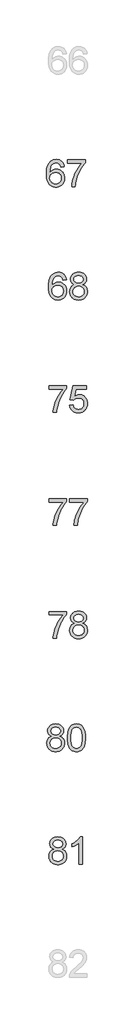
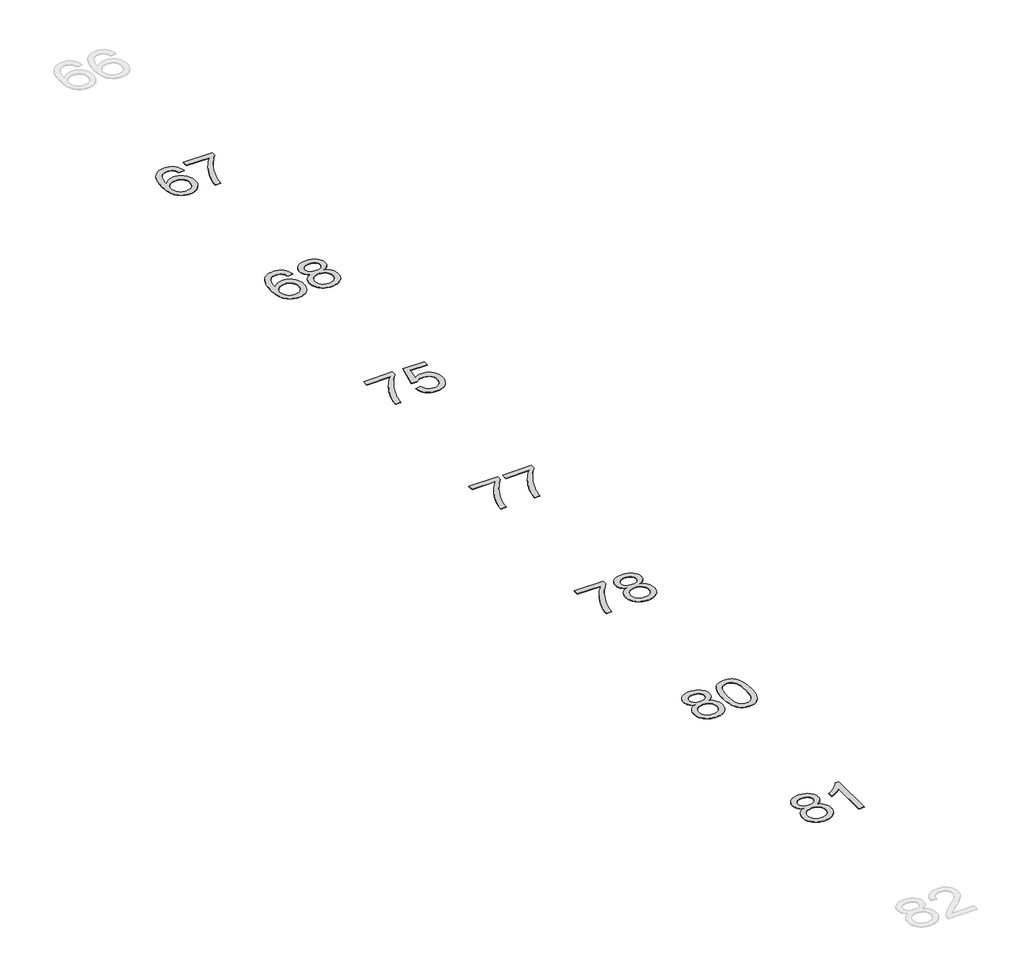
# One storey, part 2 of 19: 7 proxies.
"""IFC4 building model written with IfcOpenShell, lengths in millimetres."""

from ifc_helpers import new_model, si_unit, origin, origin_with_axes, place, context, project, spatial, polyline, outline, extrude, element, save

model = new_model("IFC4")

# Units and contexts
model_context = context("Model", 3, world=origin())
ifc_project = project(units=[si_unit("LENGTHUNIT", "METRE", prefix="MILLI")], contexts=[model_context])

# Site, building, storey
site = spatial("IfcSite", under=ifc_project)
building = spatial("IfcBuilding", under=site)
storey = spatial("IfcBuildingStorey", under=building, Name="Marelli - Linha ACTIVE - Planta Baixa", Elevation=0.0)

# Proxies
placement = place(None, origin())
element("IfcBuildingElementProxy", 1, Name="1200mm Arial", ObjectType="1200mm Arial", at=placement, inside=storey, context=model_context, shape_type="SweptSolid", body=[
    extrude(outline(polyline([(-24503.0512857, -163103.5472071), (-24653.7357509, -163122.3827652), (-24664.808999, -163082.0812927), (-24678.0159626, -163047.7027202), (-24693.3566418, -163019.2470479), (-24710.8310366, -162996.7142757), (-24743.2230462, -162969.2886729), (-24779.1835113, -162949.6989567), (-24818.7124317, -162937.9451269), (-24861.8098074, -162934.0271837), (-24897.3472081, -162936.3080521), (-24931.8545393, -162943.1506572), (-24965.3318008, -162954.554999), (-24997.7789928, -162970.5210776), (-25027.3842964, -162996.6315022), (-25054.3960319, -163028.1681863), (-25078.8141993, -163065.1311297), (-25100.6387987, -163107.5203326), (-25118.7110017, -163158.1316981), (-25131.87198, -163219.7611293), (-25140.1217338, -163292.4086263), (-25143.4602629, -163376.0741891), (-25114.7378761, -163338.2099347), (-25083.0172511, -163305.5512106), (-25048.2983878, -163278.0980167), (-25010.5812862, -163255.8503531), (-24970.8776219, -163238.6610669), (-24930.1990703, -163226.3830053), (-24888.5456314, -163219.0161683), (-24845.9173052, -163216.560556), (-24809.0187411, -163218.2390176), (-24773.5181285, -163223.2744024), (-24739.4154676, -163231.6667104), (-24706.7107582, -163243.4159416), (-24675.4040004, -163258.5220961), (-24645.4951942, -163276.9851737), (-24616.9843396, -163298.8051745), (-24589.8714366, -163323.9820986), (-24565.1083798, -163351.81697), (-24543.6470639, -163381.6108131), (-24525.4874889, -163413.3636278), (-24510.6296548, -163447.0754142), (-24499.0735616, -163482.7461721), (-24490.8192094, -163520.3759017), (-24485.866598, -163559.9646029), (-24484.2157275, -163601.5122757), (-24487.3243304, -163656.4462547), (-24496.650139, -163709.4120649), (-24512.1931533, -163760.4097065), (-24533.9533733, -163809.4391794), (-24561.1582468, -163854.6702707), (-24593.0352217, -163894.2727675), (-24629.5842979, -163928.2466698), (-24670.8054755, -163956.5919775), (-24715.8158376, -163978.9316116), (-24763.7324675, -163994.8884932), (-24814.5553651, -164004.4626221), (-24868.2845305, -164007.6539984), (-24914.2858747, -164005.5386769), (-24958.1121167, -163999.1927125), (-24999.7632563, -163988.6161052), (-25039.2392937, -163973.8088549), (-25076.5402287, -163954.7709616), (-25111.6660615, -163931.5024254), (-25144.6167919, -163904.0032463), (-25175.3924201, -163872.2734242), (-25203.2249923, -163835.6875598), (-25227.3465548, -163793.6202536), (-25247.7571078, -163746.0715057), (-25264.4566511, -163693.0413161), (-25277.4451848, -163634.5296848), (-25286.7227089, -163570.5366118), (-25292.2892233, -163501.062097), (-25294.1447281, -163426.1061404), (-25292.0845889, -163342.1784618), (-25285.9041714, -163264.1828803), (-25275.6034756, -163192.1193959), (-25261.1825014, -163125.9880088), (-25242.6412488, -163065.7887188), (-25219.9797179, -163011.521526), (-25193.1979086, -162963.1864303), (-25162.2958211, -162920.7834319), (-25132.2812488, -162888.5707647), (-25099.774276, -162860.6531198), (-25064.7749027, -162837.0304971), (-25027.2831288, -162817.7028968), (-24987.2989545, -162802.6703188), (-24944.8223796, -162791.9327631), (-24899.8534042, -162785.4902296), (-24852.3920283, -162783.3427185), (-24782.9910899, -162788.6586133), (-24720.1752392, -162804.6062978), (-24663.9444763, -162831.1857719), (-24614.298801, -162868.3970358), (-24572.5809828, -162914.9892904), (-24540.1337908, -162969.7117372), (-24516.9572251, -163032.5643761), (-24503.0512857, -163103.5472071)]), holes=[polyline([(-25143.4602629, -163599.157831), (-25141.2805621, -163632.9202011), (-25134.7414596, -163665.9284131), (-25123.8429555, -163698.182467), (-25108.5850498, -163729.6823629), (-25089.7127034, -163758.9473756), (-25067.9708775, -163784.4967801), (-25043.359572, -163806.3305766), (-25015.878787, -163824.4487648), (-24985.7032663, -163838.676601), (-24953.007754, -163848.8393411), (-24917.79225, -163854.9369852), (-24880.0567544, -163856.9695332), (-24827.6795553, -163852.7572844), (-24780.6182511, -163840.1205378), (-24738.8728417, -163819.0592936), (-24702.4433271, -163789.5735517), (-24672.8932058, -163752.8589286), (-24651.7859763, -163710.1110407), (-24639.1216387, -163661.3298882), (-24634.9001928, -163606.5154709), (-24639.0664564, -163553.8439662), (-24651.5652471, -163507.0769676), (-24672.3965651, -163466.214475), (-24701.5604103, -163431.2564884), (-24738.1002895, -163403.2514715), (-24781.0597094, -163383.247888), (-24830.4386703, -163371.2457379), (-24886.2371719, -163367.2450212), (-24937.9153951, -163371.2457379), (-24985.5285224, -163383.247888), (-25029.0765535, -163403.2514715), (-25068.5594887, -163431.2564884), (-25101.3285774, -163465.7546225), (-25124.7350693, -163505.2375576), (-25138.7789645, -163549.7052938), (-25143.4602629, -163599.157831)])]), origin_with_axes(), (0.0, 0.0, 1.0), 10.0),
    extrude(outline(polyline([(-24352.3668205, -162952.8627418), (-24352.3668205, -162802.1782766), (-23561.273378, -162802.1782766), (-23561.273378, -162924.0207934), (-23617.7892496, -162990.5246611), (-23674.0292096, -163066.7222194), (-23729.9932581, -163152.6134682), (-23785.6813951, -163248.1984076), (-23838.0769883, -163349.3383651), (-23884.1634052, -163451.8946683), (-23923.9406459, -163555.8673172), (-23957.4087104, -163661.2563118), (-23977.3479146, -163737.7941609), (-23993.3139932, -163817.9004653), (-24005.3069462, -163901.5752251), (-24013.3267737, -163988.8184403), (-24164.0112389, -163988.8184403), (-24159.2747583, -163914.8189769), (-24147.7140666, -163833.4986619), (-24129.3291638, -163744.8574952), (-24104.1200501, -163648.8954767), (-24072.381031, -163550.1651463), (-24034.406412, -163453.2190435), (-23990.1961933, -163358.0571684), (-23939.7503747, -163264.679521), (-23885.3406276, -163175.8268221), (-23829.2386233, -163094.2397926), (-23771.4443619, -163019.9184325), (-23711.9578433, -162952.8627418), (-24352.3668205, -162952.8627418)])), origin_with_axes(), (0.0, 0.0, 1.0), 10.0),
])
element("IfcBuildingElementProxy", 2, Name="1200mm Arial", ObjectType="1200mm Arial", at=placement, inside=storey, context=model_context, shape_type="SweptSolid", body=[
    extrude(outline(polyline([(-24408.8734949, -168103.5472071), (-24559.5579602, -168122.3827652), (-24570.6312082, -168082.0812927), (-24583.8381718, -168047.7027202), (-24599.178851, -168019.2470479), (-24616.6532458, -167996.7142757), (-24649.0452555, -167969.2886729), (-24685.0057205, -167949.6989567), (-24724.5346409, -167937.9451269), (-24767.6320166, -167934.0271837), (-24803.1694174, -167936.3080521), (-24837.6767485, -167943.1506572), (-24871.1540101, -167954.554999), (-24903.601202, -167970.5210776), (-24933.2065056, -167996.6315022), (-24960.2182411, -168028.1681863), (-24984.6364085, -168065.1311297), (-25006.4610079, -168107.5203326), (-25024.5332109, -168158.1316981), (-25037.6941893, -168219.7611293), (-25045.943943, -168292.4086263), (-25049.2824721, -168376.0741891), (-25020.5600854, -168338.2099347), (-24988.8394603, -168305.5512106), (-24954.120597, -168278.0980167), (-24916.4034955, -168255.8503531), (-24876.6998311, -168238.6610669), (-24836.0212795, -168226.3830053), (-24794.3678406, -168219.0161683), (-24751.7395144, -168216.560556), (-24714.8409503, -168218.2390176), (-24679.3403378, -168223.2744024), (-24645.2376768, -168231.6667104), (-24612.5329675, -168243.4159416), (-24581.2262097, -168258.5220961), (-24551.3174035, -168276.9851737), (-24522.8065488, -168298.8051745), (-24495.6936458, -168323.9820986), (-24470.930589, -168351.81697), (-24449.4692731, -168381.6108131), (-24431.3096981, -168413.3636278), (-24416.451864, -168447.0754142), (-24404.8957709, -168482.7461721), (-24396.6414186, -168520.3759017), (-24391.6888072, -168559.9646029), (-24390.0379368, -168601.5122757), (-24393.1465396, -168656.4462547), (-24402.4723482, -168709.4120649), (-24418.0153625, -168760.4097065), (-24439.7755825, -168809.4391794), (-24466.9804561, -168854.6702707), (-24498.8574309, -168894.2727675), (-24535.4065072, -168928.2466698), (-24576.6276847, -168956.5919775), (-24621.6380468, -168978.9316116), (-24669.5546767, -168994.8884932), (-24720.3775743, -169004.4626221), (-24774.1067397, -169007.6539984), (-24820.108084, -169005.5386769), (-24863.9343259, -168999.1927125), (-24905.5854656, -168988.6161052), (-24945.0615029, -168973.8088549), (-24982.3624379, -168954.7709616), (-25017.4882707, -168931.5024254), (-25050.4390012, -168904.0032463), (-25081.2146293, -168872.2734242), (-25109.0472015, -168835.6875598), (-25133.1687641, -168793.6202536), (-25153.579317, -168746.0715057), (-25170.2788603, -168693.0413161), (-25183.267394, -168634.5296848), (-25192.5449181, -168570.5366118), (-25198.1114325, -168501.062097), (-25199.9669374, -168426.1061404), (-25197.9067982, -168342.1784618), (-25191.7263807, -168264.1828803), (-25181.4256848, -168192.1193959), (-25167.0047106, -168125.9880088), (-25148.463458, -168065.7887188), (-25125.8019271, -168011.521526), (-25099.0201179, -167963.1864303), (-25068.1180303, -167920.7834319), (-25038.103458, -167888.5707647), (-25005.5964852, -167860.6531198), (-24970.5971119, -167837.0304971), (-24933.1053381, -167817.7028968), (-24893.1211637, -167802.6703188), (-24850.6445888, -167791.9327631), (-24805.6756135, -167785.4902296), (-24758.2142375, -167783.3427185), (-24688.8132992, -167788.6586133), (-24625.9974485, -167804.6062978), (-24569.7666855, -167831.1857719), (-24520.1210103, -167868.3970358), (-24478.403192, -167914.9892904), (-24445.956, -167969.7117372), (-24422.7794343, -168032.5643761), (-24408.8734949, -168103.5472071)]), holes=[polyline([(-25049.2824721, -168599.157831), (-25047.1027713, -168632.9202011), (-25040.5636688, -168665.9284131), (-25029.6651647, -168698.182467), (-25014.407259, -168729.6823629), (-24995.5349126, -168758.9473756), (-24973.7930867, -168784.4967801), (-24949.1817812, -168806.3305766), (-24921.7009962, -168824.4487648), (-24891.5254756, -168838.676601), (-24858.8299632, -168848.8393411), (-24823.6144592, -168854.9369852), (-24785.8789636, -168856.9695332), (-24733.5017645, -168852.7572844), (-24686.4404603, -168840.1205378), (-24644.6950509, -168819.0592936), (-24608.2655363, -168789.5735517), (-24578.7154151, -168752.8589286), (-24557.6081856, -168710.1110407), (-24544.9438479, -168661.3298882), (-24540.722402, -168606.5154709), (-24544.8886656, -168553.8439662), (-24557.3874564, -168507.0769676), (-24578.2187744, -168466.214475), (-24607.3826195, -168431.2564884), (-24643.9224987, -168403.2514715), (-24686.8819187, -168383.247888), (-24736.2608795, -168371.2457379), (-24792.0593811, -168367.2450212), (-24843.7376044, -168371.2457379), (-24891.3507316, -168383.247888), (-24934.8987628, -168403.2514715), (-24974.3816979, -168431.2564884), (-25007.1507866, -168465.7546225), (-25030.5572786, -168505.2375576), (-25044.6011737, -168549.7052938), (-25049.2824721, -168599.157831)])]), origin_with_axes(), (0.0, 0.0, 1.0), 10.0),
    extrude(outline(polyline([(-24038.637055, -168324.8650154), (-24081.9827511, -168306.7652212), (-24119.3135765, -168285.1337599), (-24150.6295314, -168259.9706314), (-24175.9306156, -168231.2758358), (-24195.4375584, -168199.3252845), (-24209.3710889, -168164.3948891), (-24217.7312073, -168126.4846495), (-24220.5179134, -168085.5945657), (-24214.4478605, -168024.1398784), (-24206.8602943, -167995.3301197), (-24196.2377017, -167967.7987509), (-24182.5800826, -167941.545772), (-24165.8874371, -167916.571183), (-24123.3970667, -167870.4571749), (-24098.109778, -167850.0397242), (-24070.8083355, -167832.3446002), (-24041.492739, -167817.371803), (-24010.1629886, -167805.1213326), (-23941.461026, -167788.787372), (-23864.7024477, -167783.3427185), (-23787.5759874, -167788.9161307), (-23718.35899, -167805.6363674), (-23686.7165399, -167818.1765449), (-23657.0514555, -167833.5034285), (-23629.3637368, -167851.6170183), (-23603.6533839, -167872.5173141), (-23560.3904613, -167919.5326331), (-23543.3943131, -167944.8613085), (-23529.4883737, -167971.4039944), (-23518.672643, -167999.1606909), (-23510.9471211, -168028.1313981), (-23506.311808, -168058.3161158), (-23504.7667036, -168089.7148441), (-23507.5166215, -168129.160991), (-23515.7663752, -168165.9767817), (-23529.5159648, -168200.1622161), (-23548.7653902, -168231.7172942), (-23573.6066219, -168260.2189518), (-23604.1316305, -168285.2441245), (-23640.3404159, -168306.7928124), (-23682.2329781, -168324.8650154), (-23632.7068645, -168345.9354566), (-23589.4899271, -168372.6528865), (-23552.5821659, -168405.0173051), (-23521.983581, -168443.0287122), (-23497.9700837, -168485.8409794), (-23480.8175857, -168532.607978), (-23470.5260869, -168583.3297081), (-23467.0955873, -168638.0061697), (-23468.7970415, -168676.3670647), (-23473.9014042, -168713.1644613), (-23482.4086753, -168748.3983594), (-23494.3188549, -168782.068759), (-23509.631943, -168814.1756601), (-23528.3479395, -168844.7190628), (-23550.4668444, -168873.6989669), (-23575.9886578, -168901.1153726), (-23604.2879803, -168926.085363), (-23634.7394125, -168947.7260214), (-23667.3429543, -168966.0373477), (-23702.0986058, -168981.019342), (-23739.006367, -168992.6720042), (-23778.0662378, -169000.9953343), (-23819.2782183, -169005.9893324), (-23862.6423085, -169007.6539984), (-23906.0063987, -169005.9824346), (-23947.2183792, -169000.9677432), (-23986.27825, -168992.6099241), (-24023.1860112, -168980.9089774), (-24057.9416627, -168965.864903), (-24090.5452045, -168947.4777011), (-24120.9966367, -168925.7473715), (-24149.2959591, -168900.6739142), (-24174.8177725, -168873.1034579), (-24196.9366775, -168843.8821312), (-24215.652674, -168813.009934), (-24230.9657621, -168780.4868664), (-24242.8759417, -168746.3129283), (-24251.3832128, -168710.4881198), (-24256.4875755, -168673.0124408), (-24258.1890297, -168633.8858913), (-24254.6205744, -168576.7170293), (-24243.9152083, -168524.4042096), (-24226.0729315, -168476.9474322), (-24201.0937441, -168434.3466971), (-24169.5294689, -168397.3745566), (-24131.931929, -168366.8035628), (-24088.3011243, -168342.6337157), (-24038.637055, -168324.8650154)]), holes=[polyline([(-24069.8334482, -168090.0091497), (-24066.4949191, -168124.553269), (-24056.4793317, -168155.7864504), (-24039.7866862, -168183.7086938), (-24016.4169825, -168208.3199993), (-23986.6645261, -168228.4063562), (-23950.8236227, -168242.753754), (-23908.8942723, -168251.3621927), (-23860.8764749, -168254.2316723), (-23814.0450969, -168251.3805868), (-23773.0262545, -168242.8273304), (-23737.8199475, -168228.5719031), (-23708.4261761, -168208.6143049), (-23685.2496104, -168184.5180342), (-23668.6949206, -168157.8465896), (-23658.7621068, -168128.5999709), (-23655.4511688, -168096.7781784), (-23658.8724714, -168063.714784), (-23669.136379, -168033.3921106), (-23686.2428918, -168005.810158), (-23710.1920097, -167980.9689263), (-23740.2479687, -167960.4319139), (-23775.6750048, -167945.7626193), (-23816.4731181, -167936.9610426), (-23862.6423085, -167934.0271837), (-23909.1701838, -167936.8966633), (-23950.1614351, -167945.5051019), (-23985.6160624, -167959.8524998), (-24015.5340657, -167979.9388567), (-24039.2900455, -168004.0351274), (-24056.2586026, -168030.4122664), (-24066.4397368, -168059.0702739), (-24069.8334482, -168090.0091497)]), polyline([(-24107.5045645, -168628.5883906), (-24105.931869, -168657.6418712), (-24101.2137824, -168686.2354992), (-24082.341436, -168742.0431979), (-24067.3410477, -168767.9328933), (-24047.5030111, -168790.7139859), (-24022.8273262, -168810.3864756), (-23993.3139932, -168826.9503624), (-23961.1243186, -168840.0837496), (-23928.4196092, -168849.4647405), (-23895.1998651, -168855.093335), (-23861.4650861, -168856.9695332), (-23806.9817626, -168853.0239988), (-23758.8995859, -168841.1873956), (-23717.2185558, -168821.4597236), (-23681.9386725, -168793.8409828), (-23653.8692762, -168760.133795), (-23633.8197075, -168722.140782), (-23621.7899662, -168679.8619437), (-23617.7800525, -168633.2972801), (-23621.9187249, -168585.9876555), (-23634.3347423, -168542.9454621), (-23655.0281045, -168504.1706998), (-23683.9988116, -168469.6633687), (-23720.2351882, -168441.336455), (-23762.7255586, -168421.1029453), (-23811.469923, -168408.9628395), (-23866.4682812, -168404.9161375), (-23920.1514614, -168408.9076572), (-23967.5990417, -168420.8822161), (-24008.8110222, -168440.8398144), (-24043.7874029, -168468.7804519), (-24071.6636611, -168502.7175659), (-24091.5752741, -168540.6645937), (-24103.5222419, -168582.6215353), (-24107.5045645, -168628.5883906)])]), origin_with_axes(), (0.0, 0.0, 1.0), 10.0),
])
element("IfcBuildingElementProxy", 3, Name="1200mm Arial", ObjectType="1200mm Arial", at=placement, inside=storey, context=model_context, shape_type="SweptSolid", body=[
    extrude(outline(polyline([(-25181.1313792, -172952.8627418), (-25181.1313792, -172802.1782766), (-24390.0379368, -172802.1782766), (-24390.0379368, -172924.0207934), (-24446.5538083, -172990.5246611), (-24502.7937683, -173066.7222194), (-24558.7578168, -173152.6134682), (-24614.4459538, -173248.1984076), (-24666.841547, -173349.3383651), (-24712.9279639, -173451.8946683), (-24752.7052047, -173555.8673172), (-24786.1732692, -173661.2563118), (-24806.1124733, -173737.7941609), (-24822.0785519, -173817.9004653), (-24834.071505, -173901.5752251), (-24842.0913324, -173988.8184403), (-24992.7757977, -173988.8184403), (-24988.039317, -173914.8189769), (-24976.4786253, -173833.4986619), (-24958.0937226, -173744.8574952), (-24932.8846089, -173648.8954767), (-24901.1455897, -173550.1651463), (-24863.1709708, -173453.2190435), (-24818.960752, -173358.0571684), (-24768.5149334, -173264.679521), (-24714.1051863, -173175.8268221), (-24658.0031821, -173094.2397926), (-24600.2089206, -173019.9184325), (-24540.722402, -172952.8627418), (-25181.1313792, -172952.8627418)])), origin_with_axes(), (0.0, 0.0, 1.0), 10.0),
    extrude(outline(polyline([(-24258.1890297, -173668.6139517), (-24107.5045645, -173649.7783935), (-24096.2473754, -173698.2192552), (-24079.8398384, -173740.2405761), (-24058.2819535, -173775.8423562), (-24031.5737207, -173805.0245955), (-23999.7703222, -173827.7505057), (-23962.9269404, -173843.9832988), (-23921.0435752, -173853.7229746), (-23874.1202267, -173856.9695332), (-23816.7306355, -173852.4537817), (-23766.110073, -173838.9065272), (-23722.2585391, -173816.3277698), (-23685.176034, -173784.7175093), (-23655.6902921, -173745.6392444), (-23634.6290479, -173700.6564734), (-23621.9923013, -173649.7691965), (-23617.7800525, -173592.9774135), (-23621.7255869, -173539.3034304), (-23633.5621901, -173491.5891356), (-23653.2898621, -173449.8345291), (-23680.9086029, -173414.039611), (-23716.510383, -173385.3264213), (-23760.1871728, -173364.817), (-23811.9389725, -173352.5113473), (-23871.765782, -173348.4094631), (-23910.0531006, -173350.0465379), (-23944.8639344, -173354.9577626), (-23976.1982834, -173363.143137), (-24004.0561474, -173374.6026611), (-24051.3289838, -173404.6954083), (-24088.6690063, -173442.5872538), (-24239.3534716, -173423.7516957), (-24107.5045645, -172802.1782766), (-23523.6022617, -172802.1782766), (-23523.6022617, -172952.8627418), (-23985.6620477, -172952.8627418), (-24050.1149732, -173284.8394543), (-23996.9376308, -173246.7268796), (-23942.4727014, -173219.503612), (-23886.7201851, -173203.1696514), (-23829.6800817, -173197.7249978), (-23792.2411909, -173199.4126565), (-23756.2968207, -173204.4756325), (-23721.8469711, -173212.9139257), (-23688.8916422, -173224.7275363), (-23657.4308338, -173239.9164642), (-23627.464546, -173258.4807093), (-23598.9927789, -173280.4202718), (-23572.0155323, -173305.7351516), (-23547.4249202, -173333.7033803), (-23526.1130564, -173363.6029895), (-23508.0799408, -173395.4339791), (-23493.3255735, -173429.1963492), (-23481.8499545, -173464.8900998), (-23473.6530838, -173502.5152308), (-23468.7349614, -173542.0717424), (-23467.0955873, -173583.5596344), (-23473.0000933, -173661.6241938), (-23480.3807258, -173698.6147284), (-23490.7136114, -173734.2440996), (-23503.9987499, -173768.5123075), (-23520.2361415, -173801.4193519), (-23539.4257861, -173832.965233), (-23561.5676836, -173863.1499507), (-23591.5684603, -173897.0180869), (-23624.1811992, -173926.3704716), (-23659.4059003, -173951.2071048), (-23697.2425635, -173971.5279865), (-23737.6911888, -173987.3331167), (-23780.7517764, -173998.6224954), (-23826.4243261, -174005.3961227), (-23874.7088379, -174007.6539984), (-23952.4698947, -174001.8506599), (-23988.529228, -173994.5964869), (-24022.7077646, -173984.4406445), (-24055.0055045, -173971.383133), (-24085.4224477, -173955.4239522), (-24113.9585942, -173936.5631021), (-24140.613944, -173914.8005828), (-24164.9516373, -173890.6422321), (-24186.5348141, -173864.5938875), (-24205.3634745, -173836.6555493), (-24221.4376184, -173806.8272173), (-24234.7572459, -173775.1088915), (-24245.3223569, -173741.500572), (-24258.1890297, -173668.6139517)])), origin_with_axes(), (0.0, 0.0, 1.0), 10.0),
])
element("IfcBuildingElementProxy", 4, Name="1200mm Arial", ObjectType="1200mm Arial", at=placement, inside=storey, context=model_context, shape_type="SweptSolid", body=[
    extrude(outline(polyline([(-25181.1313792, -177952.8627418), (-25181.1313792, -177802.1782766), (-24390.0379368, -177802.1782766), (-24390.0379368, -177924.0207934), (-24446.5538083, -177990.5246611), (-24502.7937683, -178066.7222194), (-24558.7578168, -178152.6134682), (-24614.4459538, -178248.1984076), (-24666.841547, -178349.3383651), (-24712.9279639, -178451.8946683), (-24752.7052047, -178555.8673172), (-24786.1732692, -178661.2563118), (-24806.1124733, -178737.7941609), (-24822.0785519, -178817.9004653), (-24834.071505, -178901.5752251), (-24842.0913324, -178988.8184403), (-24992.7757977, -178988.8184403), (-24988.039317, -178914.8189769), (-24976.4786253, -178833.4986619), (-24958.0937226, -178744.8574952), (-24932.8846089, -178648.8954767), (-24901.1455897, -178550.1651463), (-24863.1709708, -178453.2190435), (-24818.960752, -178358.0571684), (-24768.5149334, -178264.679521), (-24714.1051863, -178175.8268221), (-24658.0031821, -178094.2397926), (-24600.2089206, -178019.9184325), (-24540.722402, -177952.8627418), (-25181.1313792, -177952.8627418)])), origin_with_axes(), (0.0, 0.0, 1.0), 10.0),
    extrude(outline(polyline([(-24258.1890297, -177952.8627418), (-24258.1890297, -177802.1782766), (-23467.0955873, -177802.1782766), (-23467.0955873, -177924.0207934), (-23523.6114588, -177990.5246611), (-23579.8514188, -178066.7222194), (-23635.8154673, -178152.6134682), (-23691.5036043, -178248.1984076), (-23743.8991975, -178349.3383651), (-23789.9856144, -178451.8946683), (-23829.7628552, -178555.8673172), (-23863.2309197, -178661.2563118), (-23883.1701238, -178737.7941609), (-23899.1362024, -178817.9004653), (-23911.1291555, -178901.5752251), (-23919.1489829, -178988.8184403), (-24069.8334482, -178988.8184403), (-24065.0969675, -178914.8189769), (-24053.5362758, -178833.4986619), (-24035.1513731, -178744.8574952), (-24009.9422594, -178648.8954767), (-23978.2032402, -178550.1651463), (-23940.2286213, -178453.2190435), (-23896.0184025, -178358.0571684), (-23845.5725839, -178264.679521), (-23791.1628368, -178175.8268221), (-23735.0608326, -178094.2397926), (-23677.2665711, -178019.9184325), (-23617.7800525, -177952.8627418), (-24258.1890297, -177952.8627418)])), origin_with_axes(), (0.0, 0.0, 1.0), 10.0),
])
element("IfcBuildingElementProxy", 5, Name="1200mm Arial", ObjectType="1200mm Arial", at=placement, inside=storey, context=model_context, shape_type="SweptSolid", body=[
    extrude(outline(polyline([(-25181.1313792, -182952.8627418), (-25181.1313792, -182802.1782766), (-24390.0379368, -182802.1782766), (-24390.0379368, -182924.0207934), (-24446.5538083, -182990.5246611), (-24502.7937683, -183066.7222194), (-24558.7578168, -183152.6134682), (-24614.4459538, -183248.1984076), (-24666.841547, -183349.3383651), (-24712.9279639, -183451.8946683), (-24752.7052047, -183555.8673172), (-24786.1732692, -183661.2563118), (-24806.1124733, -183737.7941609), (-24822.0785519, -183817.9004653), (-24834.071505, -183901.5752251), (-24842.0913324, -183988.8184403), (-24992.7757977, -183988.8184403), (-24988.039317, -183914.8189769), (-24976.4786253, -183833.4986619), (-24958.0937226, -183744.8574952), (-24932.8846089, -183648.8954767), (-24901.1455897, -183550.1651463), (-24863.1709708, -183453.2190435), (-24818.960752, -183358.0571684), (-24768.5149334, -183264.679521), (-24714.1051863, -183175.8268221), (-24658.0031821, -183094.2397926), (-24600.2089206, -183019.9184325), (-24540.722402, -182952.8627418), (-25181.1313792, -182952.8627418)])), origin_with_axes(), (0.0, 0.0, 1.0), 10.0),
    extrude(outline(polyline([(-24038.637055, -183324.8650154), (-24081.9827511, -183306.7652212), (-24119.3135765, -183285.1337599), (-24150.6295314, -183259.9706314), (-24175.9306156, -183231.2758358), (-24195.4375584, -183199.3252845), (-24209.3710889, -183164.3948891), (-24217.7312073, -183126.4846495), (-24220.5179134, -183085.5945657), (-24214.4478605, -183024.1398784), (-24206.8602943, -182995.3301197), (-24196.2377017, -182967.7987509), (-24182.5800826, -182941.545772), (-24165.8874371, -182916.571183), (-24123.3970667, -182870.4571749), (-24098.109778, -182850.0397242), (-24070.8083355, -182832.3446002), (-24041.492739, -182817.371803), (-24010.1629886, -182805.1213326), (-23941.461026, -182788.787372), (-23864.7024477, -182783.3427185), (-23787.5759874, -182788.9161307), (-23718.35899, -182805.6363674), (-23686.7165399, -182818.1765449), (-23657.0514555, -182833.5034285), (-23629.3637368, -182851.6170183), (-23603.6533839, -182872.5173141), (-23560.3904613, -182919.5326331), (-23543.3943131, -182944.8613085), (-23529.4883737, -182971.4039944), (-23518.672643, -182999.1606909), (-23510.9471211, -183028.1313981), (-23506.311808, -183058.3161158), (-23504.7667036, -183089.7148441), (-23507.5166215, -183129.160991), (-23515.7663752, -183165.9767817), (-23529.5159648, -183200.1622161), (-23548.7653902, -183231.7172942), (-23573.6066219, -183260.2189518), (-23604.1316305, -183285.2441245), (-23640.3404159, -183306.7928124), (-23682.2329781, -183324.8650154), (-23632.7068645, -183345.9354566), (-23589.4899271, -183372.6528865), (-23552.5821659, -183405.0173051), (-23521.983581, -183443.0287122), (-23497.9700837, -183485.8409794), (-23480.8175857, -183532.607978), (-23470.5260869, -183583.3297081), (-23467.0955873, -183638.0061697), (-23468.7970415, -183676.3670647), (-23473.9014042, -183713.1644613), (-23482.4086753, -183748.3983594), (-23494.3188549, -183782.068759), (-23509.631943, -183814.1756601), (-23528.3479395, -183844.7190628), (-23550.4668444, -183873.6989669), (-23575.9886578, -183901.1153726), (-23604.2879803, -183926.085363), (-23634.7394125, -183947.7260214), (-23667.3429543, -183966.0373477), (-23702.0986058, -183981.019342), (-23739.006367, -183992.6720042), (-23778.0662378, -184000.9953343), (-23819.2782183, -184005.9893324), (-23862.6423085, -184007.6539984), (-23906.0063987, -184005.9824346), (-23947.2183792, -184000.9677432), (-23986.27825, -183992.6099241), (-24023.1860112, -183980.9089774), (-24057.9416627, -183965.864903), (-24090.5452045, -183947.4777011), (-24120.9966367, -183925.7473715), (-24149.2959591, -183900.6739142), (-24174.8177725, -183873.1034579), (-24196.9366775, -183843.8821312), (-24215.652674, -183813.009934), (-24230.9657621, -183780.4868664), (-24242.8759417, -183746.3129283), (-24251.3832128, -183710.4881198), (-24256.4875755, -183673.0124408), (-24258.1890297, -183633.8858913), (-24254.6205744, -183576.7170293), (-24243.9152083, -183524.4042096), (-24226.0729315, -183476.9474322), (-24201.0937441, -183434.3466971), (-24169.5294689, -183397.3745566), (-24131.931929, -183366.8035628), (-24088.3011243, -183342.6337157), (-24038.637055, -183324.8650154)]), holes=[polyline([(-24069.8334482, -183090.0091497), (-24066.4949191, -183124.553269), (-24056.4793317, -183155.7864504), (-24039.7866862, -183183.7086938), (-24016.4169825, -183208.3199993), (-23986.6645261, -183228.4063562), (-23950.8236227, -183242.753754), (-23908.8942723, -183251.3621927), (-23860.8764749, -183254.2316723), (-23814.0450969, -183251.3805868), (-23773.0262545, -183242.8273304), (-23737.8199475, -183228.5719031), (-23708.4261761, -183208.6143049), (-23685.2496104, -183184.5180342), (-23668.6949206, -183157.8465896), (-23658.7621068, -183128.5999709), (-23655.4511688, -183096.7781784), (-23658.8724714, -183063.714784), (-23669.136379, -183033.3921106), (-23686.2428918, -183005.810158), (-23710.1920097, -182980.9689263), (-23740.2479687, -182960.4319139), (-23775.6750048, -182945.7626193), (-23816.4731181, -182936.9610426), (-23862.6423085, -182934.0271837), (-23909.1701838, -182936.8966633), (-23950.1614351, -182945.5051019), (-23985.6160624, -182959.8524998), (-24015.5340657, -182979.9388567), (-24039.2900455, -183004.0351274), (-24056.2586026, -183030.4122664), (-24066.4397368, -183059.0702739), (-24069.8334482, -183090.0091497)]), polyline([(-24107.5045645, -183628.5883906), (-24105.931869, -183657.6418712), (-24101.2137824, -183686.2354992), (-24082.341436, -183742.0431979), (-24067.3410477, -183767.9328933), (-24047.5030111, -183790.7139859), (-24022.8273262, -183810.3864756), (-23993.3139932, -183826.9503624), (-23961.1243186, -183840.0837496), (-23928.4196092, -183849.4647405), (-23895.1998651, -183855.093335), (-23861.4650861, -183856.9695332), (-23806.9817626, -183853.0239988), (-23758.8995859, -183841.1873956), (-23717.2185558, -183821.4597236), (-23681.9386725, -183793.8409828), (-23653.8692762, -183760.133795), (-23633.8197075, -183722.140782), (-23621.7899662, -183679.8619437), (-23617.7800525, -183633.2972801), (-23621.9187249, -183585.9876555), (-23634.3347423, -183542.9454621), (-23655.0281045, -183504.1706998), (-23683.9988116, -183469.6633687), (-23720.2351882, -183441.336455), (-23762.7255586, -183421.1029453), (-23811.469923, -183408.9628395), (-23866.4682812, -183404.9161375), (-23920.1514614, -183408.9076572), (-23967.5990417, -183420.8822161), (-24008.8110222, -183440.8398144), (-24043.7874029, -183468.7804519), (-24071.6636611, -183502.7175659), (-24091.5752741, -183540.6645937), (-24103.5222419, -183582.6215353), (-24107.5045645, -183628.5883906)])]), origin_with_axes(), (0.0, 0.0, 1.0), 10.0),
])
element("IfcBuildingElementProxy", 6, Name="1200mm Arial", ObjectType="1200mm Arial", at=placement, inside=storey, context=model_context, shape_type="SweptSolid", body=[
    extrude(outline(polyline([(-25055.7571952, -188324.8650154), (-25099.1028913, -188306.7652212), (-25136.4337168, -188285.1337599), (-25167.7496716, -188259.9706314), (-25193.0507558, -188231.2758358), (-25212.5576986, -188199.3252845), (-25226.4912292, -188164.3948891), (-25234.8513475, -188126.4846495), (-25237.6380537, -188085.5945657), (-25231.5680007, -188024.1398784), (-25223.9804346, -187995.3301197), (-25213.357842, -187967.7987509), (-25199.7002229, -187941.545772), (-25183.0075774, -187916.571183), (-25140.5172069, -187870.4571749), (-25115.2299183, -187850.0397242), (-25087.9284757, -187832.3446002), (-25058.6128792, -187817.371803), (-25027.2831288, -187805.1213326), (-24958.5811662, -187788.787372), (-24881.8225879, -187783.3427185), (-24804.6961276, -187788.9161307), (-24735.4791302, -187805.6363674), (-24703.8366801, -187818.1765449), (-24674.1715958, -187833.5034285), (-24646.4838771, -187851.6170183), (-24620.7735242, -187872.5173141), (-24577.5106015, -187919.5326331), (-24560.5144533, -187944.8613085), (-24546.6085139, -187971.4039944), (-24535.7927833, -187999.1606909), (-24528.0672614, -188028.1313981), (-24523.4319482, -188058.3161158), (-24521.8868438, -188089.7148441), (-24524.6367618, -188129.160991), (-24532.8865155, -188165.9767817), (-24546.6361051, -188200.1622161), (-24565.8855305, -188231.7172942), (-24590.7267622, -188260.2189518), (-24621.2517707, -188285.2441245), (-24657.4605561, -188306.7928124), (-24699.3531183, -188324.8650154), (-24649.8270047, -188345.9354566), (-24606.6100673, -188372.6528865), (-24569.7023062, -188405.0173051), (-24539.1037212, -188443.0287122), (-24515.090224, -188485.8409794), (-24497.937726, -188532.607978), (-24487.6462271, -188583.3297081), (-24484.2157275, -188638.0061697), (-24485.9171818, -188676.3670647), (-24491.0215445, -188713.1644613), (-24499.5288156, -188748.3983594), (-24511.4389952, -188782.068759), (-24526.7520832, -188814.1756601), (-24545.4680797, -188844.7190628), (-24567.5869847, -188873.6989669), (-24593.1087981, -188901.1153726), (-24621.4081206, -188926.085363), (-24651.8595527, -188947.7260214), (-24684.4630946, -188966.0373477), (-24719.2187461, -188981.019342), (-24756.1265072, -188992.6720042), (-24795.1863781, -189000.9953343), (-24836.3983586, -189005.9893324), (-24879.7624488, -189007.6539984), (-24923.1265389, -189005.9824346), (-24964.3385194, -189000.9677432), (-25003.3983903, -188992.6099241), (-25040.3061515, -188980.9089774), (-25075.0618029, -188965.864903), (-25107.6653448, -188947.4777011), (-25138.1167769, -188925.7473715), (-25166.4160994, -188900.6739142), (-25191.9379128, -188873.1034579), (-25214.0568178, -188843.8821312), (-25232.7728143, -188813.009934), (-25248.0859023, -188780.4868664), (-25259.9960819, -188746.3129283), (-25268.5033531, -188710.4881198), (-25273.6077157, -188673.0124408), (-25275.30917, -188633.8858913), (-25271.7407146, -188576.7170293), (-25261.0353486, -188524.4042096), (-25243.1930718, -188476.9474322), (-25218.2138843, -188434.3466971), (-25186.6496091, -188397.3745566), (-25149.0520692, -188366.8035628), (-25105.4212646, -188342.6337157), (-25055.7571952, -188324.8650154)]), holes=[polyline([(-25086.9535884, -188090.0091497), (-25083.6150593, -188124.553269), (-25073.599472, -188155.7864504), (-25056.9068265, -188183.7086938), (-25033.5371227, -188208.3199993), (-25003.7846664, -188228.4063562), (-24967.943763, -188242.753754), (-24926.0144126, -188251.3621927), (-24877.9966152, -188254.2316723), (-24831.1652372, -188251.3805868), (-24790.1463947, -188242.8273304), (-24754.9400878, -188228.5719031), (-24725.5463164, -188208.6143049), (-24702.3697507, -188184.5180342), (-24685.8150609, -188157.8465896), (-24675.882247, -188128.5999709), (-24672.5713091, -188096.7781784), (-24675.9926116, -188063.714784), (-24686.2565193, -188033.3921106), (-24703.3630321, -188005.810158), (-24727.31215, -187980.9689263), (-24757.368109, -187960.4319139), (-24792.7951451, -187945.7626193), (-24833.5932584, -187936.9610426), (-24879.7624488, -187934.0271837), (-24926.2903241, -187936.8966633), (-24967.2815754, -187945.5051019), (-25002.7362027, -187959.8524998), (-25032.654206, -187979.9388567), (-25056.4101858, -188004.0351274), (-25073.3787428, -188030.4122664), (-25083.559877, -188059.0702739), (-25086.9535884, -188090.0091497)]), polyline([(-25124.6247047, -188628.5883906), (-25123.0520092, -188657.6418712), (-25118.3339226, -188686.2354992), (-25099.4615763, -188742.0431979), (-25084.4611879, -188767.9328933), (-25064.6231513, -188790.7139859), (-25039.9474665, -188810.3864756), (-25010.4341334, -188826.9503624), (-24978.2444589, -188840.0837496), (-24945.5397495, -188849.4647405), (-24912.3200053, -188855.093335), (-24878.5852264, -188856.9695332), (-24824.1019029, -188853.0239988), (-24776.0197261, -188841.1873956), (-24734.3386961, -188821.4597236), (-24699.0588127, -188793.8409828), (-24670.9894165, -188760.133795), (-24650.9398478, -188722.140782), (-24638.9101065, -188679.8619437), (-24634.9001928, -188633.2972801), (-24639.0388652, -188585.9876555), (-24651.4548825, -188542.9454621), (-24672.1482448, -188504.1706998), (-24701.1189519, -188469.6633687), (-24737.3553284, -188441.336455), (-24779.8456989, -188421.1029453), (-24828.5900632, -188408.9628395), (-24883.5884215, -188404.9161375), (-24937.2716017, -188408.9076572), (-24984.719182, -188420.8822161), (-25025.9311625, -188440.8398144), (-25060.9075432, -188468.7804519), (-25088.7838014, -188502.7175659), (-25108.6954144, -188540.6645937), (-25120.6423821, -188582.6215353), (-25124.6247047, -188628.5883906)])]), origin_with_axes(), (0.0, 0.0, 1.0), 10.0),
    extrude(outline(polyline([(-24352.3668205, -188395.792664), (-24349.5985085, -188294.4319773), (-24341.2935724, -188202.8385576), (-24327.4520123, -188121.0124048), (-24308.0738283, -188048.953519), (-24283.2417936, -187986.073289), (-24253.0386818, -187931.7831035), (-24217.4644928, -187886.0829627), (-24176.5192268, -187848.9728664), (-24130.0649278, -187820.2596767), (-24077.9636403, -187799.7502555), (-24020.2153641, -187787.4446027), (-23956.8200993, -187783.3427185), (-23909.1793809, -187785.7707396), (-23863.9666837, -187793.0548031), (-23821.1820076, -187805.194909), (-23780.8253528, -187822.1910572), (-23743.8716063, -187843.7581391), (-23711.2956557, -187869.6110463), (-23683.0975007, -187899.7497788), (-23659.2771416, -187934.1743365), (-23638.6389616, -187972.7467637), (-23619.9873445, -188015.3291046), (-23588.6437985, -188112.5235278), (-23576.6692395, -188169.6831928), (-23568.1159832, -188235.9479371), (-23562.9840293, -188311.3177609), (-23561.273378, -188395.792664), (-23564.0140989, -188496.5095573), (-23572.2362615, -188587.6431245), (-23585.9398658, -188669.1933658), (-23605.1249119, -188741.1602811), (-23629.7638085, -188804.0681023), (-23659.8289645, -188858.4410612), (-23695.32038, -188904.2791578), (-23736.2380549, -188941.5823921), (-23782.7475362, -188970.4887199), (-23835.0143707, -188991.1360968), (-23893.0385583, -189003.524523), (-23956.8200993, -189007.6539984), (-23999.4944107, -189005.8605737), (-24039.8142774, -189000.4802995), (-24077.7796993, -188991.5131759), (-24113.3906764, -188978.9592028), (-24146.6472088, -188962.8183803), (-24177.5492964, -188943.0907083), (-24206.0969392, -188919.7761868), (-24232.2901372, -188892.8748159), (-24260.4331099, -188850.2786794), (-24284.8236862, -188802.0999336), (-24305.4618661, -188748.3385785), (-24322.3476497, -188688.9946142), (-24335.4810369, -188624.0680406), (-24344.8620278, -188553.5588577), (-24350.4906223, -188477.4670655), (-24352.3668205, -188395.792664)]), holes=[polyline([(-24201.6823552, -188395.4983584), (-24197.2677713, -188526.4919399), (-24184.0240195, -188632.5247279), (-24174.0912056, -188676.1808245), (-24161.9510998, -188713.5967226), (-24147.603702, -188744.7724225), (-24131.0490122, -188769.7079239), (-24093.6722015, -188807.884878), (-24052.1751124, -188835.1541309), (-24006.557745, -188851.5156826), (-23956.8200993, -188856.9695332), (-23907.0824535, -188851.4972885), (-23861.4650861, -188835.0805545), (-23819.967997, -188807.7193311), (-23782.5911863, -188769.4136183), (-23766.0364966, -188744.418336), (-23751.6890987, -188713.2104465), (-23739.5489929, -188675.7899498), (-23729.616179, -188632.1568459), (-23716.3724272, -188526.2528166), (-23711.9578433, -188395.4983584), (-23716.2252744, -188267.9720648), (-23729.0275678, -188163.8062779), (-23738.6292879, -188120.4835744), (-23750.3647236, -188083.0009976), (-23764.2338748, -188051.3585475), (-23780.2367416, -188025.5562241), (-23816.9881529, -187985.5122689), (-23858.9634885, -187956.9094438), (-23906.1627485, -187939.7477487), (-23958.5859328, -187934.0271837), (-24008.0660612, -187939.067167), (-24052.9108764, -187954.187117), (-24093.1203785, -187979.3870337), (-24128.6945674, -188014.666917), (-24145.8010802, -188043.2145599), (-24160.6267246, -188077.2068562), (-24173.1715006, -188116.6438061), (-24183.4354083, -188161.5254095), (-24197.1206185, -188267.6225769), (-24201.6823552, -188395.4983584)])]), origin_with_axes(), (0.0, 0.0, 1.0), 10.0),
])
element("IfcBuildingElementProxy", 7, Name="1200mm Arial", ObjectType="1200mm Arial", at=placement, inside=storey, context=model_context, shape_type="SweptSolid", body=[
    extrude(outline(polyline([(-24961.5794045, -193324.8650154), (-25004.9251006, -193306.7652212), (-25042.255926, -193285.1337599), (-25073.5718809, -193259.9706314), (-25098.8729651, -193231.2758358), (-25118.3799079, -193199.3252845), (-25132.3134384, -193164.3948891), (-25140.6735568, -193126.4846495), (-25143.4602629, -193085.5945657), (-25137.39021, -193024.1398784), (-25129.8026438, -192995.3301197), (-25119.1800512, -192967.7987509), (-25105.5224321, -192941.545772), (-25088.8297866, -192916.571183), (-25046.3394162, -192870.4571749), (-25021.0521275, -192850.0397242), (-24993.750685, -192832.3446002), (-24964.4350885, -192817.371803), (-24933.1053381, -192805.1213326), (-24864.4033755, -192788.787372), (-24787.6447972, -192783.3427185), (-24710.5183369, -192788.9161307), (-24641.3013395, -192805.6363674), (-24609.6588894, -192818.1765449), (-24579.993805, -192833.5034285), (-24552.3060863, -192851.6170183), (-24526.5957334, -192872.5173141), (-24483.3328108, -192919.5326331), (-24466.3366626, -192944.8613085), (-24452.4307232, -192971.4039944), (-24441.6149925, -192999.1606909), (-24433.8894706, -193028.1313981), (-24429.2541575, -193058.3161158), (-24427.7090531, -193089.7148441), (-24430.458971, -193129.160991), (-24438.7087247, -193165.9767817), (-24452.4583143, -193200.1622161), (-24471.7077397, -193231.7172942), (-24496.5489714, -193260.2189518), (-24527.07398, -193285.2441245), (-24563.2827654, -193306.7928124), (-24605.1753276, -193324.8650154), (-24555.649214, -193345.9354566), (-24512.4322766, -193372.6528865), (-24475.5245154, -193405.0173051), (-24444.9259305, -193443.0287122), (-24420.9124332, -193485.8409794), (-24403.7599352, -193532.607978), (-24393.4684364, -193583.3297081), (-24390.0379368, -193638.0061697), (-24391.739391, -193676.3670647), (-24396.8437537, -193713.1644613), (-24405.3510248, -193748.3983594), (-24417.2612044, -193782.068759), (-24432.5742925, -193814.1756601), (-24451.290289, -193844.7190628), (-24473.4091939, -193873.6989669), (-24498.9310073, -193901.1153726), (-24527.2303298, -193926.085363), (-24557.681762, -193947.7260214), (-24590.2853038, -193966.0373477), (-24625.0409553, -193981.019342), (-24661.9487165, -193992.6720042), (-24701.0085873, -194000.9953343), (-24742.2205678, -194005.9893324), (-24785.584658, -194007.6539984), (-24828.9487482, -194005.9824346), (-24870.1607287, -194000.9677432), (-24909.2205995, -193992.6099241), (-24946.1283607, -193980.9089774), (-24980.8840122, -193965.864903), (-25013.487554, -193947.4777011), (-25043.9389862, -193925.7473715), (-25072.2383086, -193900.6739142), (-25097.760122, -193873.1034579), (-25119.879027, -193843.8821312), (-25138.5950235, -193813.009934), (-25153.9081116, -193780.4868664), (-25165.8182912, -193746.3129283), (-25174.3255623, -193710.4881198), (-25179.429925, -193673.0124408), (-25181.1313792, -193633.8858913), (-25177.5629239, -193576.7170293), (-25166.8575578, -193524.4042096), (-25149.015281, -193476.9474322), (-25124.0360936, -193434.3466971), (-25092.4718184, -193397.3745566), (-25054.8742785, -193366.8035628), (-25011.2434738, -193342.6337157), (-24961.5794045, -193324.8650154)]), holes=[polyline([(-24992.7757977, -193090.0091497), (-24989.4372686, -193124.553269), (-24979.4216812, -193155.7864504), (-24962.7290357, -193183.7086938), (-24939.359332, -193208.3199993), (-24909.6068756, -193228.4063562), (-24873.7659722, -193242.753754), (-24831.8366218, -193251.3621927), (-24783.8188244, -193254.2316723), (-24736.9874464, -193251.3805868), (-24695.968604, -193242.8273304), (-24660.762297, -193228.5719031), (-24631.3685256, -193208.6143049), (-24608.1919599, -193184.5180342), (-24591.6372701, -193157.8465896), (-24581.7044563, -193128.5999709), (-24578.3935183, -193096.7781784), (-24581.8148209, -193063.714784), (-24592.0787285, -193033.3921106), (-24609.1852413, -193005.810158), (-24633.1343592, -192980.9689263), (-24663.1903182, -192960.4319139), (-24698.6173543, -192945.7626193), (-24739.4154676, -192936.9610426), (-24785.584658, -192934.0271837), (-24832.1125333, -192936.8966633), (-24873.1037846, -192945.5051019), (-24908.5584119, -192959.8524998), (-24938.4764152, -192979.9388567), (-24962.232395, -193004.0351274), (-24979.2009521, -193030.4122664), (-24989.3820863, -193059.0702739), (-24992.7757977, -193090.0091497)]), polyline([(-25030.446914, -193628.5883906), (-25028.8742185, -193657.6418712), (-25024.1561319, -193686.2354992), (-25005.2837855, -193742.0431979), (-24990.2833972, -193767.9328933), (-24970.4453606, -193790.7139859), (-24945.7696757, -193810.3864756), (-24916.2563427, -193826.9503624), (-24884.0666681, -193840.0837496), (-24851.3619587, -193849.4647405), (-24818.1422146, -193855.093335), (-24784.4074356, -193856.9695332), (-24729.9241121, -193853.0239988), (-24681.8419354, -193841.1873956), (-24640.1609053, -193821.4597236), (-24604.881022, -193793.8409828), (-24576.8116257, -193760.133795), (-24556.762057, -193722.140782), (-24544.7323157, -193679.8619437), (-24540.722402, -193633.2972801), (-24544.8610744, -193585.9876555), (-24557.2770918, -193542.9454621), (-24577.970454, -193504.1706998), (-24606.9411611, -193469.6633687), (-24643.1775377, -193441.336455), (-24685.6679081, -193421.1029453), (-24734.4122725, -193408.9628395), (-24789.4106307, -193404.9161375), (-24843.0938109, -193408.9076572), (-24890.5413912, -193420.8822161), (-24931.7533717, -193440.8398144), (-24966.7297524, -193468.7804519), (-24994.6060106, -193502.7175659), (-25014.5176236, -193540.6645937), (-25026.4645914, -193582.6215353), (-25030.446914, -193628.5883906)])]), origin_with_axes(), (0.0, 0.0, 1.0), 10.0),
    extrude(outline(polyline([(-23693.1222851, -193988.8184403), (-23843.8067503, -193988.8184403), (-23843.8067503, -193049.3949774), (-23906.7145715, -193100.2730573), (-23986.5449645, -193151.0775609), (-24070.348483, -193195.4809177), (-24145.1756808, -193227.1555575), (-24145.1756808, -193084.7116489), (-24084.0244961, -193054.0486846), (-24026.8280429, -193020.3322998), (-23973.5863212, -192983.5624943), (-23924.2993309, -192943.7392684), (-23880.4386, -192902.7020318), (-23843.4756565, -192862.2901946), (-23813.4105005, -192822.5037569), (-23790.2431318, -192783.3427185), (-23693.1222851, -192783.3427185), (-23693.1222851, -193988.8184403)])), origin_with_axes(), (0.0, 0.0, 1.0), 10.0),
])

save(model, "model.ifc")
